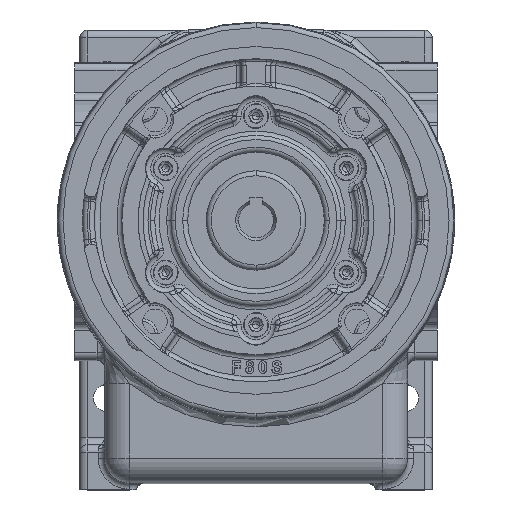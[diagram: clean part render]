
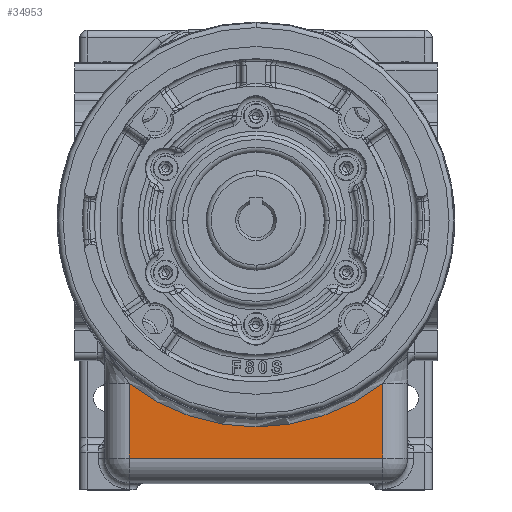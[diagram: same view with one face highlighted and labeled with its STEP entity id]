
A CAD part, top view. The second image highlights one B-rep face of the part: STEP entity #34953.
In plain terms, the highlighted planar face has unit normal (0, 0, 1).
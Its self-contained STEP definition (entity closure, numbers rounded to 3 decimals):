
#3279 = PLANE ( 'NONE',  #3344 ) ;
#3280 = FACE_OUTER_BOUND ( 'NONE', #34957, .T. ) ;
#3320 = DIRECTION ( 'NONE',  ( 0., -1., 0. ) ) ;
#3321 = VECTOR ( 'NONE', #3320, 1000. ) ;
#3322 = CARTESIAN_POINT ( 'NONE',  ( -51., 63., 159. ) ) ;
#3323 = LINE ( 'NONE', #3322, #3321 ) ;
#3324 = CARTESIAN_POINT ( 'NONE',  ( -51., -69.483, 159. ) ) ;
#3325 = DIRECTION ( 'NONE',  ( -1., 0., 0. ) ) ;
#3326 = DIRECTION ( 'NONE',  ( 0., 0., -1. ) ) ;
#3327 = CARTESIAN_POINT ( 'NONE',  ( 0., -4., 159. ) ) ;
#3328 = AXIS2_PLACEMENT_3D ( 'NONE', #3327, #3326, #3325 ) ;
#3329 = CIRCLE ( 'NONE', #3328, 83. ) ;
#3330 = CARTESIAN_POINT ( 'NONE',  ( 51., -69.483, 159. ) ) ;
#3331 = DIRECTION ( 'NONE',  ( 0., 1., 0. ) ) ;
#3332 = VECTOR ( 'NONE', #3331, 1000. ) ;
#3333 = CARTESIAN_POINT ( 'NONE',  ( 51., 63., 159. ) ) ;
#3334 = LINE ( 'NONE', #3333, #3332 ) ;
#3335 = CARTESIAN_POINT ( 'NONE',  ( 51., -99.5, 159. ) ) ;
#3336 = CARTESIAN_POINT ( 'NONE',  ( -51., -99.5, 159. ) ) ;
#3337 = DIRECTION ( 'NONE',  ( 1., 0., 0. ) ) ;
#3338 = VECTOR ( 'NONE', #3337, 1000. ) ;
#3339 = CARTESIAN_POINT ( 'NONE',  ( -27.244, -99.5, 159. ) ) ;
#3340 = LINE ( 'NONE', #3339, #3338 ) ;
#3341 = DIRECTION ( 'NONE',  ( -1., 0., 0. ) ) ;
#3342 = DIRECTION ( 'NONE',  ( 0., 0., -1. ) ) ;
#3343 = CARTESIAN_POINT ( 'NONE',  ( -27.244, 63., 159. ) ) ;
#3344 = AXIS2_PLACEMENT_3D ( 'NONE', #3343, #3342, #3341 ) ;
#34953 = ADVANCED_FACE ( 'NONE', ( #3280 ), #3279, .F. ) ;
#34957 = EDGE_LOOP ( 'NONE', ( #34958, #34963, #34966, #34972 ) ) ;
#34958 = ORIENTED_EDGE ( 'NONE', *, *, #34959, .T. ) ;
#34959 = EDGE_CURVE ( 'NONE', #34960, #34961, #3340, .T. ) ;
#34960 = VERTEX_POINT ( 'NONE', #3336 ) ;
#34961 = VERTEX_POINT ( 'NONE', #3335 ) ;
#34963 = ORIENTED_EDGE ( 'NONE', *, *, #34964, .T. ) ;
#34964 = EDGE_CURVE ( 'NONE', #34961, #34965, #3334, .T. ) ;
#34965 = VERTEX_POINT ( 'NONE', #3330 ) ;
#34966 = ORIENTED_EDGE ( 'NONE', *, *, #34968, .T. ) ;
#34968 = EDGE_CURVE ( 'NONE', #34965, #34970, #3329, .T. ) ;
#34970 = VERTEX_POINT ( 'NONE', #3324 ) ;
#34972 = ORIENTED_EDGE ( 'NONE', *, *, #34974, .T. ) ;
#34974 = EDGE_CURVE ( 'NONE', #34970, #34960, #3323, .T. ) ;
